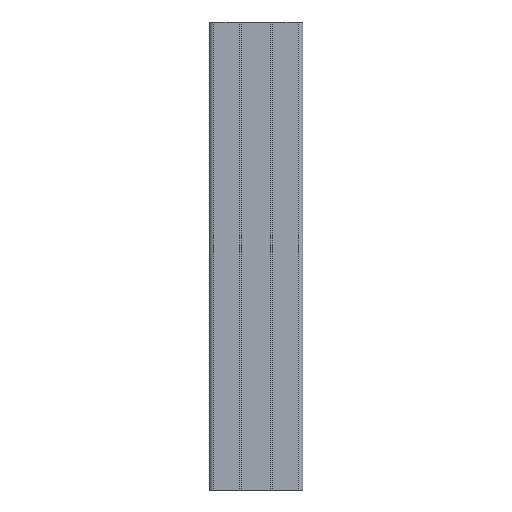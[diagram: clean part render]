
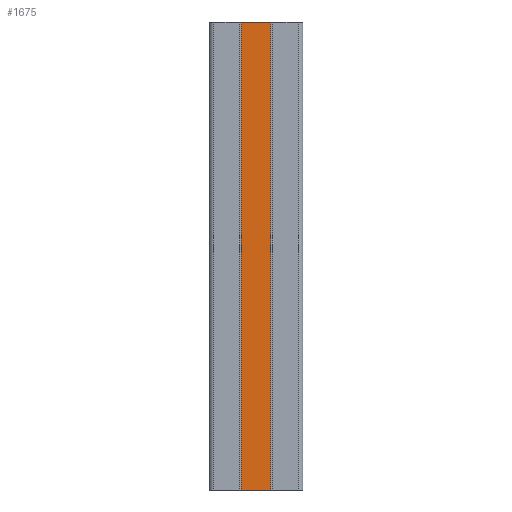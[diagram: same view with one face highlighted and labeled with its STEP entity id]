
A CAD part, left-side view. The second image highlights one B-rep face of the part: STEP entity #1675.
In plain terms, the highlighted planar face has unit normal (-1, 0, 0).
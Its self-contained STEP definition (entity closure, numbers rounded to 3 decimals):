
#41 = VECTOR ( 'NONE', #1463, 1000. ) ;
#117 = DIRECTION ( 'NONE',  ( 0., 1., 0. ) ) ;
#144 = LINE ( 'NONE', #1697, #537 ) ;
#254 = VECTOR ( 'NONE', #117, 1000. ) ;
#255 = CARTESIAN_POINT ( 'NONE',  ( 5.5, 13.1, -100. ) ) ;
#257 = PLANE ( 'NONE',  #682 ) ;
#268 = CARTESIAN_POINT ( 'NONE',  ( 5.5, 6.9, 0. ) ) ;
#280 = DIRECTION ( 'NONE',  ( 0., 1., 0. ) ) ;
#295 = CARTESIAN_POINT ( 'NONE',  ( 5.5, 13.1, 0. ) ) ;
#366 = ORIENTED_EDGE ( 'NONE', *, *, #1401, .T. ) ;
#379 = ORIENTED_EDGE ( 'NONE', *, *, #1148, .F. ) ;
#475 = VERTEX_POINT ( 'NONE', #2031 ) ;
#536 = EDGE_CURVE ( 'NONE', #475, #949, #2061, .T. ) ;
#537 = VECTOR ( 'NONE', #1856, 1000. ) ;
#607 = CARTESIAN_POINT ( 'NONE',  ( 5.5, 13.1, -100. ) ) ;
#674 = FACE_OUTER_BOUND ( 'NONE', #1849, .T. ) ;
#682 = AXIS2_PLACEMENT_3D ( 'NONE', #607, #1310, #280 ) ;
#708 = VERTEX_POINT ( 'NONE', #1558 ) ;
#931 = EDGE_CURVE ( 'NONE', #1953, #949, #1305, .T. ) ;
#949 = VERTEX_POINT ( 'NONE', #295 ) ;
#1135 = ORIENTED_EDGE ( 'NONE', *, *, #931, .T. ) ;
#1148 = EDGE_CURVE ( 'NONE', #708, #475, #144, .T. ) ;
#1305 = LINE ( 'NONE', #2094, #254 ) ;
#1309 = CARTESIAN_POINT ( 'NONE',  ( 5.5, 6.9, -100. ) ) ;
#1310 = DIRECTION ( 'NONE',  ( 1., 0., 0. ) ) ;
#1401 = EDGE_CURVE ( 'NONE', #708, #1953, #2057, .T. ) ;
#1443 = DIRECTION ( 'NONE',  ( 0., 0., 1. ) ) ;
#1463 = DIRECTION ( 'NONE',  ( 0., 0., 1. ) ) ;
#1558 = CARTESIAN_POINT ( 'NONE',  ( 5.5, 6.9, -100. ) ) ;
#1675 = ADVANCED_FACE ( 'NONE', ( #674 ), #257, .F. ) ;
#1697 = CARTESIAN_POINT ( 'NONE',  ( 5.5, 13.1, -100. ) ) ;
#1814 = ORIENTED_EDGE ( 'NONE', *, *, #536, .F. ) ;
#1849 = EDGE_LOOP ( 'NONE', ( #1135, #1814, #379, #366 ) ) ;
#1856 = DIRECTION ( 'NONE',  ( 0., 1., 0. ) ) ;
#1953 = VERTEX_POINT ( 'NONE', #268 ) ;
#1975 = VECTOR ( 'NONE', #1443, 1000. ) ;
#2031 = CARTESIAN_POINT ( 'NONE',  ( 5.5, 13.1, -100. ) ) ;
#2057 = LINE ( 'NONE', #1309, #41 ) ;
#2061 = LINE ( 'NONE', #255, #1975 ) ;
#2094 = CARTESIAN_POINT ( 'NONE',  ( 5.5, 13.1, 0. ) ) ;
